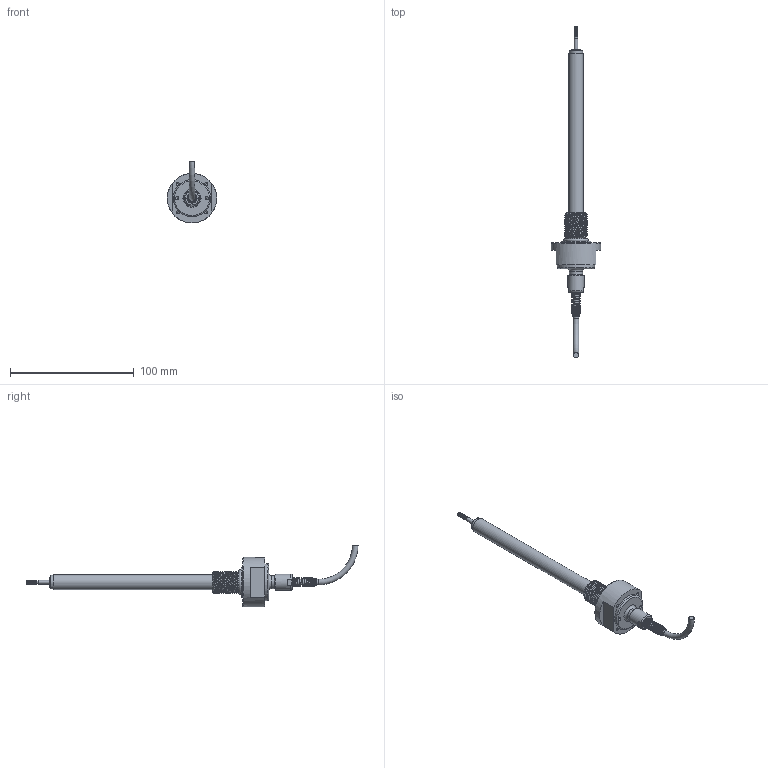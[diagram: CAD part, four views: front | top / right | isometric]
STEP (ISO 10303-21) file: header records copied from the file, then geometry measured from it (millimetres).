
FILE_DESCRIPTION( ( 'STEP AP214' ), '1' );
FILE_NAME( 'N:/Engineering/CAD_Solid/LVDT/HYD/Kunden-3D-Modell/SM50-HYD-M-18-K.stp', '2011-12-14T13:50:15', ( ' ' ), ( ' ' ), 'XStep 1.0', ' ', ' ' );
FILE_SCHEMA( ( 'CONFIG_CONTROL_DESIGN) ( )' ) );
Length unit declared in the file: metre
Products named in the file (12): 1; 2; 3; 4; 5; 6; 7; 8; 9; 10; 11; 12
Bounding box: 40 x 268.25 x 50 mm (x, y, z)
Volume: 1245.2 mm3; surface area: 17927.5 mm2
Topology: 2 solids, 74 shells, 78 faces, 287 edges, 237 vertices
Faces by surface type: cylinder 23, plane 23, cone 16, bspline 11, torus 5
Full cylindrical faces by diameter (mm): 2.5 x5, 2.6 x2, 3 x1, 4 x1, 4.5 x1, 6 x1, 8 x1, 8.2 x1, 10.6 x1, 11 x1, 12 x1, 13 x1, 15.8 x1, 24 x1, 30 x1, 40 x1
Entity records: 17548 total; most frequent: CARTESIAN_POINT 14842, DIRECTION 446, ORIENTED_EDGE 212, AXIS2_PLACEMENT_3D 209, EDGE_CURVE 209, VERTEX_POINT 209, CIRCLE 131, EDGE_LOOP 130
